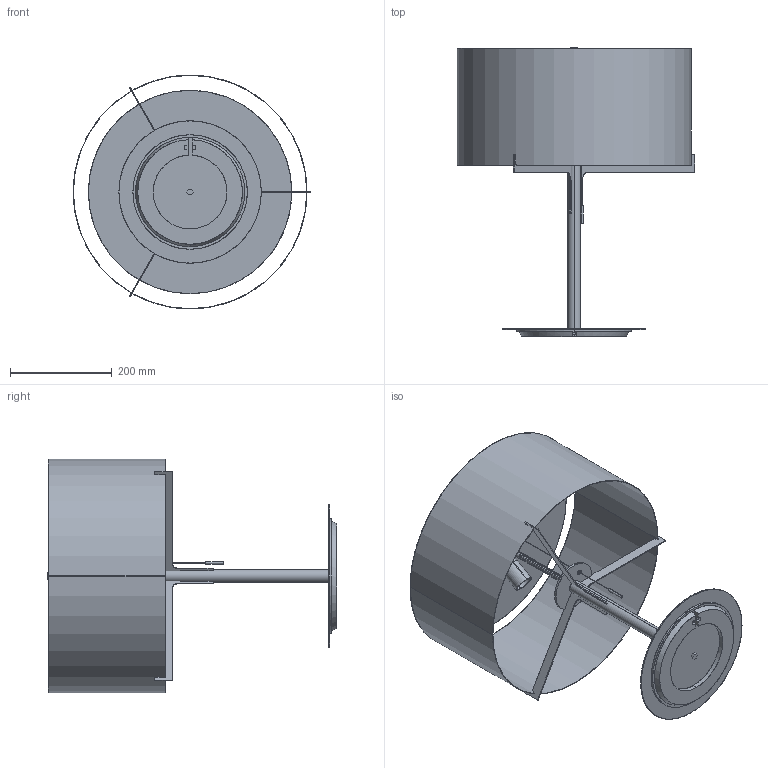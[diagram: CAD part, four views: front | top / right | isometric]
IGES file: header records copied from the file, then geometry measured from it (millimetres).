
Start section: SolidWorks IGES file using analytic representation for surfaces
Global section: file name: C:\Users\libre2.DOMINIO\Desktop\CARPYEN\3D\GABRIEL TEIXIDO\AITANA\AITANA_table.IGS; native system: SolidWorks 2014; preprocessor: SolidWorks 2014; author: libre2; date: 160728.124240; units: millimetre
Bounding box: 467.46 x 570 x 460 mm (x, y, z)
Surface area: 1240605.9 mm2 (no closed solid volume)
Topology: 0 solids, 0 shells, 317 faces, 4910 edges, 4902 vertices
Faces by surface type: bspline 186, revolution 131
